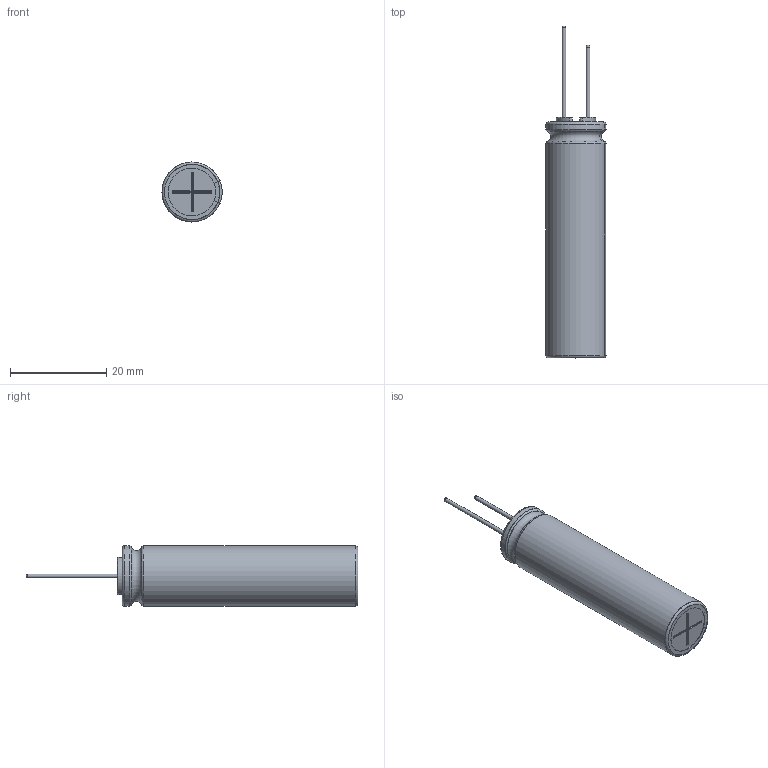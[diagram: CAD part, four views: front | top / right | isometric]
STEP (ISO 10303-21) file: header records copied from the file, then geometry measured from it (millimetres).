
FILE_DESCRIPTION(/* description */ (''),/* implementation_level */ '2;1');
FILE_NAME(/* name */ '12.5x50_Lead.stp',/* time_stamp */ '2017-09-05T14:36:08+09:00',/* author */ (''),/* organization */ (''),/* preprocessor_version */ 'ST-DEVELOPER v16',/* originating_system */ 'SIEMENS PLM Software NX 11.0',/* authorisation */ '');
FILE_SCHEMA (('AUTOMOTIVE_DESIGN { 1 0 10303 214 3 1 1 1 }'));
Length unit declared in the file: millimetre
Products named in the file (1): 12.5x50_Lead_0
Bounding box: 12.48 x 69 x 12.5 mm (x, y, z)
Volume: 5980.5 mm3; surface area: 6288.9 mm2
Topology: 3 solids, 3 shells, 132 faces, 326 edges, 203 vertices
Faces by surface type: cylinder 50, torus 35, plane 33, sphere 6, bspline 6, extrusion 2
Full cylindrical faces by diameter (mm): 0.8 x2, 12.3 x2
Entity records: 5211 total; most frequent: CARTESIAN_POINT 1361, DIRECTION 748, ORIENTED_EDGE 624, EDGE_CURVE 312, AXIS2_PLACEMENT_3D 311, VERTEX_POINT 200, CIRCLE 174, EDGE_LOOP 146
